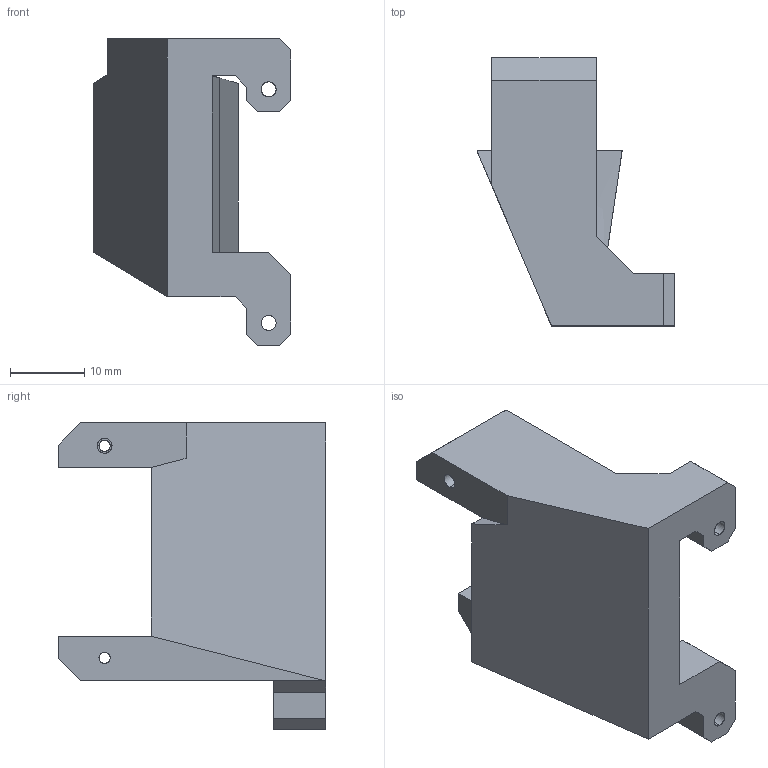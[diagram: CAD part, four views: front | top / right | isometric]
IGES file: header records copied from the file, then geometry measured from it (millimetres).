
Start section: SolidWorks IGES file using analytic representation for surfaces
Global section: file name: C:\Users\Jonathan\Dropbox\BR-Engineering\Models\CAMTILT-X4\CAMTILT-SERVO-MOUNT-R1.IGS; native system: SolidWorks 2014; preprocessor: SolidWorks 2014; author: Jonathan; date: 160426.144342; units: millimetre
Bounding box: 26.6 x 36 x 41.2 mm (x, y, z)
Surface area: 4761.6 mm2 (no closed solid volume)
Topology: 0 solids, 0 shells, 54 faces, 554 edges, 554 vertices
Faces by surface type: bspline 44, revolution 10
